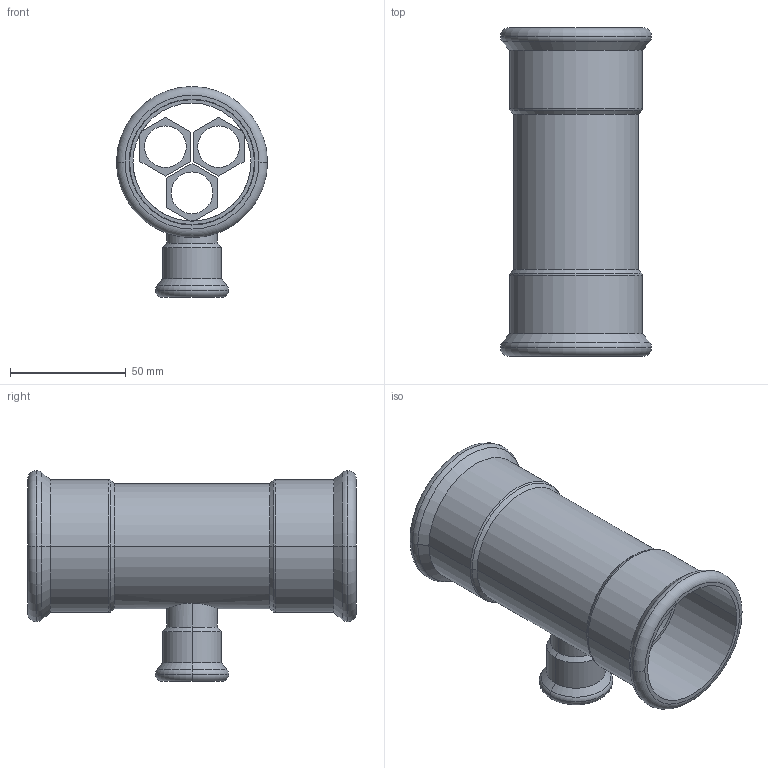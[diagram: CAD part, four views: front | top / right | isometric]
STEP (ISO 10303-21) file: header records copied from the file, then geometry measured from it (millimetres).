
FILE_DESCRIPTION(('OneSpaceDesigner STEP Export'),'2;1');
FILE_NAME('R2715 54x22x54.stp','2010-06-10T 9:08:14',(''),(''),'OneSpace Designer STEP processor for AP214 (Solid Model)','OneSpace Modeling 15.00A 14-Mar-2007 (C) CoCreate Software GmbH','');
FILE_SCHEMA(('AUTOMOTIVE_DESIGN { 1 0 10303 214 1 1 1 1 }'));
Length unit declared in the file: millimetre
Products named in the file (2): R2715_54x22x54
Assembly tree (1 placements, depth 2):
  R2715_54x22x54
    R2715_54x22x54
Bounding box: 65.3 x 142 x 91.15 mm (x, y, z)
Volume: 54109.9 mm3; surface area: 60974.4 mm2
Topology: 1 solids, 1 shells, 172 faces, 427 edges, 274 vertices
Faces by surface type: plane 90, cylinder 54, torus 16, cone 12
Entity records: 5666 total; most frequent: CARTESIAN_POINT 1857, ORIENTED_EDGE 854, DIRECTION 675, EDGE_CURVE 427, VERTEX_POINT 274, VECTOR 263, LINE 263, EDGE_LOOP 209
